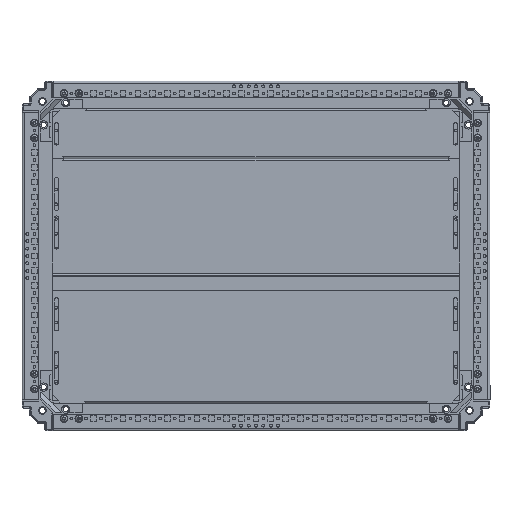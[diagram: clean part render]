
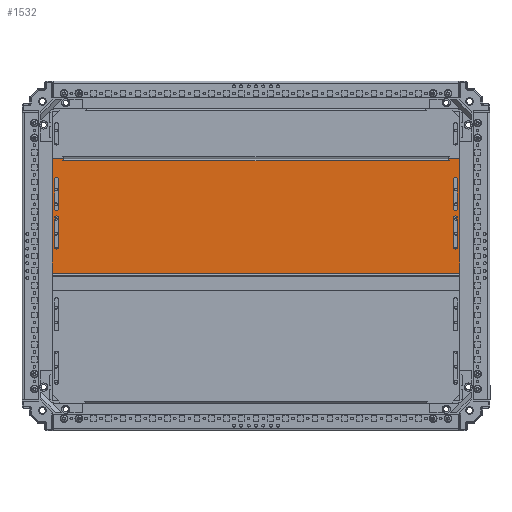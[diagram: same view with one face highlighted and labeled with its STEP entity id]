
A CAD part, top view. The second image highlights one B-rep face of the part: STEP entity #1532.
In plain terms, the highlighted planar face has unit normal (0, 0, 1).
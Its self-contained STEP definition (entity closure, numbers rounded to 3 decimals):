
#1532=ADVANCED_FACE('',(#13760,#13762,#13764,#13766,#13768),#13770,.T.);
#13760=FACE_BOUND('',#13761,.T.);
#13761=EDGE_LOOP('',(#28033,#28034,#28035,#28036,#28037,#28038,#28039,#28040,#28041,
#28042));
#13762=FACE_BOUND('',#13763,.T.);
#13763=EDGE_LOOP('',(#28043,#28044,#28045,#28046));
#13764=FACE_BOUND('',#13765,.T.);
#13765=EDGE_LOOP('',(#28047,#28048,#28049,#28050));
#13766=FACE_BOUND('',#13767,.T.);
#13767=EDGE_LOOP('',(#28051,#28052,#28053,#28054));
#13768=FACE_BOUND('',#13769,.T.);
#13769=EDGE_LOOP('',(#28055,#28056,#28057,#28058));
#13770=PLANE('',#13771);
#13771=AXIS2_PLACEMENT_3D('',#13772,#13773,#13774);
#13772=CARTESIAN_POINT('',(345.,-29.15,17.5));
#13773=DIRECTION('',(0.,0.,1.));
#13774=DIRECTION('',(0.,-1.,0.));
#28033=ORIENTED_EDGE('',*,*,#36698,.F.);
#28034=ORIENTED_EDGE('',*,*,#36699,.F.);
#28035=ORIENTED_EDGE('',*,*,#36669,.T.);
#28036=ORIENTED_EDGE('',*,*,#36700,.F.);
#28037=ORIENTED_EDGE('',*,*,#36701,.F.);
#28038=ORIENTED_EDGE('',*,*,#36646,.T.);
#28039=ORIENTED_EDGE('',*,*,#36702,.T.);
#28040=ORIENTED_EDGE('',*,*,#36703,.F.);
#28041=ORIENTED_EDGE('',*,*,#36704,.T.);
#28042=ORIENTED_EDGE('',*,*,#36705,.T.);
#28043=ORIENTED_EDGE('',*,*,#36706,.F.);
#28044=ORIENTED_EDGE('',*,*,#36707,.F.);
#28045=ORIENTED_EDGE('',*,*,#36628,.F.);
#28046=ORIENTED_EDGE('',*,*,#36708,.F.);
#28047=ORIENTED_EDGE('',*,*,#36709,.F.);
#28048=ORIENTED_EDGE('',*,*,#36710,.F.);
#28049=ORIENTED_EDGE('',*,*,#36632,.F.);
#28050=ORIENTED_EDGE('',*,*,#36711,.F.);
#28051=ORIENTED_EDGE('',*,*,#36712,.F.);
#28052=ORIENTED_EDGE('',*,*,#36713,.F.);
#28053=ORIENTED_EDGE('',*,*,#36636,.F.);
#28054=ORIENTED_EDGE('',*,*,#36714,.F.);
#28055=ORIENTED_EDGE('',*,*,#36715,.F.);
#28056=ORIENTED_EDGE('',*,*,#36716,.F.);
#28057=ORIENTED_EDGE('',*,*,#36640,.F.);
#28058=ORIENTED_EDGE('',*,*,#36717,.F.);
#36628=EDGE_CURVE('',#44404,#44406,#44407,.T.);
#36632=EDGE_CURVE('',#44412,#44414,#44415,.T.);
#36636=EDGE_CURVE('',#44420,#44422,#44423,.T.);
#36640=EDGE_CURVE('',#44428,#44430,#44431,.T.);
#36646=EDGE_CURVE('',#44436,#44440,#44442,.T.);
#36669=EDGE_CURVE('',#44478,#44483,#44484,.T.);
#36698=EDGE_CURVE('',#44491,#44531,#44532,.T.);
#36699=EDGE_CURVE('',#44478,#44491,#44533,.T.);
#36700=EDGE_CURVE('',#44534,#44483,#44535,.T.);
#36701=EDGE_CURVE('',#44436,#44534,#44536,.T.);
#36702=EDGE_CURVE('',#44440,#44537,#44538,.T.);
#36703=EDGE_CURVE('',#44539,#44537,#44540,.T.);
#36704=EDGE_CURVE('',#44539,#44541,#44542,.T.);
#36705=EDGE_CURVE('',#44541,#44531,#44543,.T.);
#36706=EDGE_CURVE('',#44544,#44545,#44546,.T.);
#36707=EDGE_CURVE('',#44406,#44544,#44547,.T.);
#36708=EDGE_CURVE('',#44545,#44404,#44548,.T.);
#36709=EDGE_CURVE('',#44549,#44550,#44551,.T.);
#36710=EDGE_CURVE('',#44414,#44549,#44552,.T.);
#36711=EDGE_CURVE('',#44550,#44412,#44553,.T.);
#36712=EDGE_CURVE('',#44554,#44555,#44556,.T.);
#36713=EDGE_CURVE('',#44422,#44554,#44557,.T.);
#36714=EDGE_CURVE('',#44555,#44420,#44558,.T.);
#36715=EDGE_CURVE('',#44559,#44560,#44561,.T.);
#36716=EDGE_CURVE('',#44430,#44559,#44562,.T.);
#36717=EDGE_CURVE('',#44560,#44428,#44563,.T.);
#44404=VERTEX_POINT('',#67744);
#44406=VERTEX_POINT('',#67748);
#44407=CIRCLE('',#67749,3.5);
#44412=VERTEX_POINT('',#67762);
#44414=VERTEX_POINT('',#67766);
#44415=CIRCLE('',#67767,3.5);
#44420=VERTEX_POINT('',#67780);
#44422=VERTEX_POINT('',#67784);
#44423=CIRCLE('',#67785,3.5);
#44428=VERTEX_POINT('',#67798);
#44430=VERTEX_POINT('',#67802);
#44431=CIRCLE('',#67803,3.5);
#44436=VERTEX_POINT('',#67816);
#44440=VERTEX_POINT('',#67824);
#44442=LINE('',#67828,#67829);
#44478=VERTEX_POINT('',#67910);
#44483=VERTEX_POINT('',#67923);
#44484=LINE('',#67924,#67925);
#44491=VERTEX_POINT('',#67939);
#44531=VERTEX_POINT('',#68035);
#44532=LINE('',#68036,#68037);
#44533=LINE('',#68039,#68040);
#44534=VERTEX_POINT('',#68042);
#44535=LINE('',#68043,#68044);
#44536=LINE('',#68046,#68047);
#44537=VERTEX_POINT('',#68049);
#44538=LINE('',#68050,#68051);
#44539=VERTEX_POINT('',#68053);
#44540=LINE('',#68054,#68055);
#44541=VERTEX_POINT('',#68057);
#44542=LINE('',#68058,#68059);
#44543=LINE('',#68061,#68062);
#44544=VERTEX_POINT('',#68064);
#44545=VERTEX_POINT('',#68065);
#44546=CIRCLE('',#68066,3.5);
#44547=LINE('',#68070,#68071);
#44548=LINE('',#68073,#68074);
#44549=VERTEX_POINT('',#68076);
#44550=VERTEX_POINT('',#68077);
#44551=CIRCLE('',#68078,3.5);
#44552=LINE('',#68082,#68083);
#44553=LINE('',#68085,#68086);
#44554=VERTEX_POINT('',#68088);
#44555=VERTEX_POINT('',#68089);
#44556=CIRCLE('',#68090,3.5);
#44557=LINE('',#68094,#68095);
#44558=LINE('',#68097,#68098);
#44559=VERTEX_POINT('',#68100);
#44560=VERTEX_POINT('',#68101);
#44561=CIRCLE('',#68102,3.5);
#44562=LINE('',#68106,#68107);
#44563=LINE('',#68109,#68110);
#67744=CARTESIAN_POINT('',(334.,15.35,17.5));
#67748=CARTESIAN_POINT('',(341.,15.35,17.5));
#67749=AXIS2_PLACEMENT_3D('',#67750,#67751,#67752);
#67750=CARTESIAN_POINT('',(337.5,15.35,17.5));
#67751=DIRECTION('',(0.,0.,1.));
#67752=DIRECTION('',(-1.,0.,0.));
#67762=CARTESIAN_POINT('',(-341.,80.35,17.5));
#67766=CARTESIAN_POINT('',(-334.,80.35,17.5));
#67767=AXIS2_PLACEMENT_3D('',#67768,#67769,#67770);
#67768=CARTESIAN_POINT('',(-337.5,80.35,17.5));
#67769=DIRECTION('',(0.,0.,1.));
#67770=DIRECTION('',(-1.,0.,0.));
#67780=CARTESIAN_POINT('',(-341.,15.35,17.5));
#67784=CARTESIAN_POINT('',(-334.,15.35,17.5));
#67785=AXIS2_PLACEMENT_3D('',#67786,#67787,#67788);
#67786=CARTESIAN_POINT('',(-337.5,15.35,17.5));
#67787=DIRECTION('',(0.,0.,1.));
#67788=DIRECTION('',(-1.,0.,0.));
#67798=CARTESIAN_POINT('',(334.,80.35,17.5));
#67802=CARTESIAN_POINT('',(341.,80.35,17.5));
#67803=AXIS2_PLACEMENT_3D('',#67804,#67805,#67806);
#67804=CARTESIAN_POINT('',(337.5,80.35,17.5));
#67805=DIRECTION('',(0.,0.,1.));
#67806=DIRECTION('',(-1.,0.,0.));
#67816=CARTESIAN_POINT('',(327.,161.55,17.5));
#67824=CARTESIAN_POINT('',(325.,161.55,17.5));
#67828=CARTESIAN_POINT('',(327.,161.55,17.5));
#67829=VECTOR('',#67830,1.);
#67830=DIRECTION('',(-1.,0.,0.));
#67910=CARTESIAN_POINT('',(345.,-28.833,17.5));
#67923=CARTESIAN_POINT('',(345.,164.85,17.5));
#67924=CARTESIAN_POINT('',(345.,-28.833,17.5));
#67925=VECTOR('',#67926,1.);
#67926=DIRECTION('',(0.,1.,0.));
#67939=CARTESIAN_POINT('',(-345.,-28.833,17.5));
#68035=CARTESIAN_POINT('',(-345.,164.85,17.5));
#68036=CARTESIAN_POINT('',(-345.,-28.833,17.5));
#68037=VECTOR('',#68038,1.);
#68038=DIRECTION('',(0.,1.,0.));
#68039=CARTESIAN_POINT('',(345.,-28.833,17.5));
#68040=VECTOR('',#68041,1.);
#68041=DIRECTION('',(-1.,0.,0.));
#68042=CARTESIAN_POINT('',(327.,164.85,17.5));
#68043=CARTESIAN_POINT('',(327.,164.85,17.5));
#68044=VECTOR('',#68045,1.);
#68045=DIRECTION('',(1.,0.,0.));
#68046=CARTESIAN_POINT('',(327.,161.55,17.5));
#68047=VECTOR('',#68048,1.);
#68048=DIRECTION('',(0.,1.,0.));
#68049=CARTESIAN_POINT('',(-325.,161.55,17.5));
#68050=CARTESIAN_POINT('',(325.,161.55,17.5));
#68051=VECTOR('',#68052,1.);
#68052=DIRECTION('',(-1.,0.,0.));
#68053=CARTESIAN_POINT('',(-327.,161.55,17.5));
#68054=CARTESIAN_POINT('',(-327.,161.55,17.5));
#68055=VECTOR('',#68056,1.);
#68056=DIRECTION('',(1.,0.,0.));
#68057=CARTESIAN_POINT('',(-327.,164.85,17.5));
#68058=CARTESIAN_POINT('',(-327.,161.55,17.5));
#68059=VECTOR('',#68060,1.);
#68060=DIRECTION('',(0.,1.,0.));
#68061=CARTESIAN_POINT('',(-327.,164.85,17.5));
#68062=VECTOR('',#68063,1.);
#68063=DIRECTION('',(-1.,0.,0.));
#68064=CARTESIAN_POINT('',(341.,64.35,17.5));
#68065=CARTESIAN_POINT('',(334.,64.35,17.5));
#68066=AXIS2_PLACEMENT_3D('',#68067,#68068,#68069);
#68067=CARTESIAN_POINT('',(337.5,64.35,17.5));
#68068=DIRECTION('',(0.,0.,1.));
#68069=DIRECTION('',(1.,0.,0.));
#68070=CARTESIAN_POINT('',(341.,15.35,17.5));
#68071=VECTOR('',#68072,1.);
#68072=DIRECTION('',(0.,1.,0.));
#68073=CARTESIAN_POINT('',(334.,64.35,17.5));
#68074=VECTOR('',#68075,1.);
#68075=DIRECTION('',(0.,-1.,0.));
#68076=CARTESIAN_POINT('',(-334.,129.35,17.5));
#68077=CARTESIAN_POINT('',(-341.,129.35,17.5));
#68078=AXIS2_PLACEMENT_3D('',#68079,#68080,#68081);
#68079=CARTESIAN_POINT('',(-337.5,129.35,17.5));
#68080=DIRECTION('',(0.,0.,1.));
#68081=DIRECTION('',(1.,0.,0.));
#68082=CARTESIAN_POINT('',(-334.,80.35,17.5));
#68083=VECTOR('',#68084,1.);
#68084=DIRECTION('',(0.,1.,0.));
#68085=CARTESIAN_POINT('',(-341.,129.35,17.5));
#68086=VECTOR('',#68087,1.);
#68087=DIRECTION('',(0.,-1.,0.));
#68088=CARTESIAN_POINT('',(-334.,64.35,17.5));
#68089=CARTESIAN_POINT('',(-341.,64.35,17.5));
#68090=AXIS2_PLACEMENT_3D('',#68091,#68092,#68093);
#68091=CARTESIAN_POINT('',(-337.5,64.35,17.5));
#68092=DIRECTION('',(0.,0.,1.));
#68093=DIRECTION('',(1.,0.,0.));
#68094=CARTESIAN_POINT('',(-334.,15.35,17.5));
#68095=VECTOR('',#68096,1.);
#68096=DIRECTION('',(0.,1.,0.));
#68097=CARTESIAN_POINT('',(-341.,64.35,17.5));
#68098=VECTOR('',#68099,1.);
#68099=DIRECTION('',(0.,-1.,0.));
#68100=CARTESIAN_POINT('',(341.,129.35,17.5));
#68101=CARTESIAN_POINT('',(334.,129.35,17.5));
#68102=AXIS2_PLACEMENT_3D('',#68103,#68104,#68105);
#68103=CARTESIAN_POINT('',(337.5,129.35,17.5));
#68104=DIRECTION('',(0.,0.,1.));
#68105=DIRECTION('',(1.,0.,0.));
#68106=CARTESIAN_POINT('',(341.,80.35,17.5));
#68107=VECTOR('',#68108,1.);
#68108=DIRECTION('',(0.,1.,0.));
#68109=CARTESIAN_POINT('',(334.,129.35,17.5));
#68110=VECTOR('',#68111,1.);
#68111=DIRECTION('',(0.,-1.,0.));
